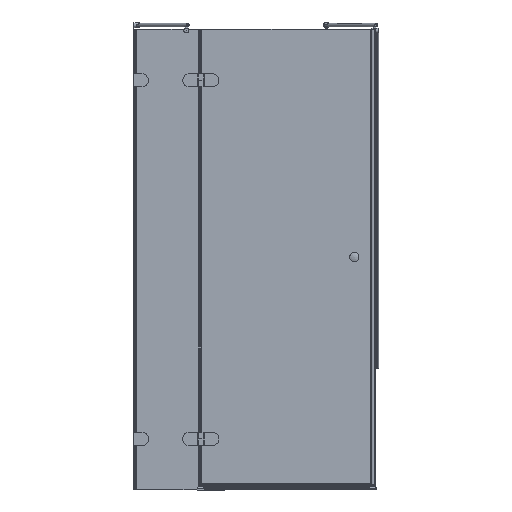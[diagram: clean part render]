
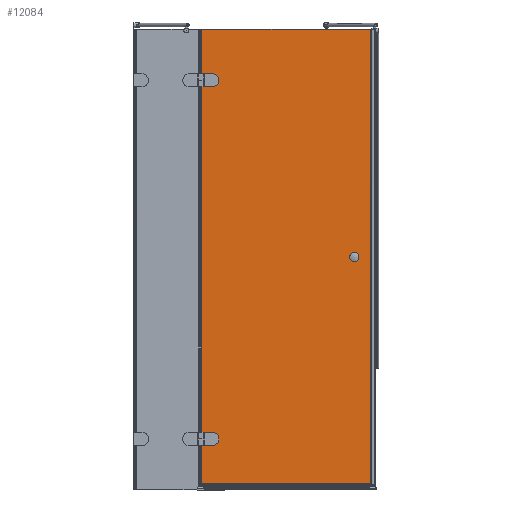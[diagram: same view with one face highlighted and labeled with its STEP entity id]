
A CAD part, front view. The second image highlights one B-rep face of the part: STEP entity #12084.
In plain terms, the highlighted planar face has unit normal (0, -1, 0).
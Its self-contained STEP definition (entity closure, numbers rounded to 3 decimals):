
#203=LINE($,#17317,#1368);
#205=LINE($,#17321,#1370);
#208=LINE($,#17328,#1373);
#253=LINE($,#17445,#1418);
#255=LINE($,#17449,#1420);
#258=LINE($,#17456,#1423);
#1108=LINE($,#20121,#2273);
#1154=LINE($,#20329,#2319);
#1160=LINE($,#20341,#2325);
#1192=LINE($,#20407,#2357);
#1368=VECTOR($,#13625,52.);
#1370=VECTOR($,#13629,23.);
#1373=VECTOR($,#13638,23.);
#1418=VECTOR($,#13749,52.);
#1420=VECTOR($,#13753,23.);
#1423=VECTOR($,#13762,23.);
#2273=VECTOR($,#15966,1875.4);
#2319=VECTOR($,#16114,1875.4);
#2325=VECTOR($,#16132,700.);
#2357=VECTOR($,#16232,700.);
#2708=FACE_BOUND($,#4072,.T.);
#2709=FACE_BOUND($,#4073,.T.);
#2710=FACE_BOUND($,#4074,.T.);
#4072=EDGE_LOOP($,(#10103,#10104,#10105,#10106));
#4073=EDGE_LOOP($,(#10107,#10108,#10109,#10110));
#4074=EDGE_LOOP($,(#10111,#10112,#10113,#10114));
#4196=CIRCLE($,#12297,26.);
#4208=CIRCLE($,#12334,26.);
#4667=VERTEX_POINT($,#17314);
#4668=VERTEX_POINT($,#17316);
#4669=VERTEX_POINT($,#17320);
#4670=VERTEX_POINT($,#17324);
#4708=VERTEX_POINT($,#17442);
#4709=VERTEX_POINT($,#17444);
#4710=VERTEX_POINT($,#17448);
#4711=VERTEX_POINT($,#17452);
#5390=VERTEX_POINT($,#20118);
#5391=VERTEX_POINT($,#20120);
#5453=VERTEX_POINT($,#20314);
#5454=VERTEX_POINT($,#20327);
#5733=EDGE_CURVE($,#4668,#4667,#203,.T.);
#5735=EDGE_CURVE($,#4669,#4668,#205,.T.);
#5737=EDGE_CURVE($,#4670,#4669,#4196,.T.);
#5739=EDGE_CURVE($,#4667,#4670,#208,.T.);
#5795=EDGE_CURVE($,#4709,#4708,#253,.T.);
#5797=EDGE_CURVE($,#4710,#4709,#255,.T.);
#5799=EDGE_CURVE($,#4711,#4710,#4208,.T.);
#5801=EDGE_CURVE($,#4708,#4711,#258,.T.);
#6916=EDGE_CURVE($,#5390,#5391,#1108,.T.);
#6997=EDGE_CURVE($,#5453,#5454,#1154,.T.);
#7003=EDGE_CURVE($,#5390,#5453,#1160,.T.);
#7036=EDGE_CURVE($,#5391,#5454,#1192,.T.);
#10103=ORIENTED_EDGE($,*,*,#5733,.T.);
#10104=ORIENTED_EDGE($,*,*,#5739,.T.);
#10105=ORIENTED_EDGE($,*,*,#5737,.T.);
#10106=ORIENTED_EDGE($,*,*,#5735,.T.);
#10107=ORIENTED_EDGE($,*,*,#5795,.T.);
#10108=ORIENTED_EDGE($,*,*,#5801,.T.);
#10109=ORIENTED_EDGE($,*,*,#5799,.T.);
#10110=ORIENTED_EDGE($,*,*,#5797,.T.);
#10111=ORIENTED_EDGE($,*,*,#7003,.T.);
#10112=ORIENTED_EDGE($,*,*,#6997,.T.);
#10113=ORIENTED_EDGE($,*,*,#7036,.F.);
#10114=ORIENTED_EDGE($,*,*,#6916,.F.);
#10762=PLANE($,#13103);
#12084=ADVANCED_FACE($,(#2708,#2709,#2710),#10762,.T.);
#12297=AXIS2_PLACEMENT_3D($,#17325,#13633,#13634);
#12334=AXIS2_PLACEMENT_3D($,#17453,#13757,#13758);
#13103=AXIS2_PLACEMENT_3D($,#20406,#16230,#16231);
#13625=DIRECTION($,(0.,0.,1.));
#13629=DIRECTION($,(-1.,0.,0.));
#13633=DIRECTION('center_axis',(0.,1.,0.));
#13634=DIRECTION('ref_axis',(0.,0.,
1.));
#13638=DIRECTION($,(1.,0.,0.));
#13749=DIRECTION($,(0.,0.,1.));
#13753=DIRECTION($,(-1.,0.,0.));
#13757=DIRECTION('center_axis',(0.,1.,0.));
#13758=DIRECTION('ref_axis',(0.,0.,
1.));
#13762=DIRECTION($,(1.,0.,0.));
#15966=DIRECTION($,(0.,0.,1.));
#16114=DIRECTION($,(0.,0.,1.));
#16132=DIRECTION($,(1.,0.,0.));
#16230=DIRECTION('center_axis',(0.,-1.,0.));
#16231=DIRECTION('ref_axis',(1.,0.,0.));
#16232=DIRECTION($,(1.,0.,0.));
#17314=CARTESIAN_POINT('',(412.876,18.956,-278.056));
#17316=CARTESIAN_POINT('',(412.876,18.956,-330.056));
#17317=CARTESIAN_POINT($,(412.876,18.956,-412.056));
#17320=CARTESIAN_POINT('',(435.876,18.956,-330.056));
#17321=CARTESIAN_POINT($,(413.876,18.956,-330.056));
#17324=CARTESIAN_POINT('',(435.876,18.956,-278.056));
#17325=CARTESIAN_POINT('Origin',(435.876,18.956,-304.056));
#17328=CARTESIAN_POINT($,(402.376,18.956,-278.056));
#17442=CARTESIAN_POINT('',(412.876,18.956,1201.944));
#17444=CARTESIAN_POINT('',(412.876,18.956,1149.944));
#17445=CARTESIAN_POINT($,(412.876,18.956,327.944));
#17448=CARTESIAN_POINT('',(435.876,18.956,1149.944));
#17449=CARTESIAN_POINT($,(413.876,18.956,1149.944));
#17452=CARTESIAN_POINT('',(435.876,18.956,1201.944));
#17453=CARTESIAN_POINT('Origin',(435.876,18.956,1175.944));
#17456=CARTESIAN_POINT($,(402.376,18.956,1201.944));
#20118=CARTESIAN_POINT('',(391.876,18.956,-489.456));
#20120=CARTESIAN_POINT('',(391.876,18.956,1385.944));
#20121=CARTESIAN_POINT($,(391.876,18.956,-494.056));
#20314=CARTESIAN_POINT('',(1091.876,18.956,-489.456));
#20327=CARTESIAN_POINT('',(1091.876,18.956,1385.944));
#20329=CARTESIAN_POINT($,(1091.876,18.956,-494.056));
#20341=CARTESIAN_POINT($,(391.876,18.956,-489.456));
#20406=CARTESIAN_POINT('Origin',(391.876,18.956,-494.056));
#20407=CARTESIAN_POINT($,(391.876,18.956,1385.944));
